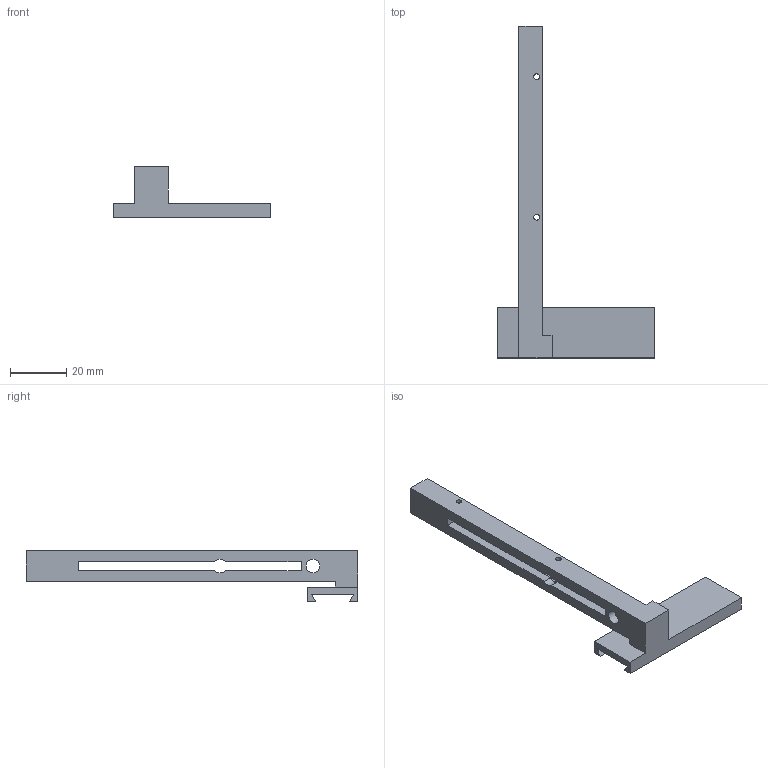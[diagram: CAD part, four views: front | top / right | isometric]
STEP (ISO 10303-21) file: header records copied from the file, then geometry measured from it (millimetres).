
FILE_DESCRIPTION(('Open CASCADE Model'),'2;1');
FILE_NAME('Open CASCADE Shape Model','2026-10-17T23:18:55',('Author'),( 'Open CASCADE'),'Open CASCADE STEP processor 7.9','Open CASCADE 7.9' ,'Unknown');
FILE_SCHEMA(('AUTOMOTIVE_DESIGN { 1 0 10303 214 1 1 1 1 }'));
Length unit declared in the file: millimetre
Products named in the file (1): Open CASCADE STEP translator 7.9 20
Bounding box: 56 x 118 x 17.9 mm (x, y, z)
Volume: 8661.9 mm3; surface area: 9054.7 mm2
Topology: 1 solids, 1 shells, 34 faces, 96 edges, 64 vertices
Faces by surface type: plane 27, cylinder 7
Full cylindrical faces by diameter (mm): 2 x4, 4.9 x1
Entity records: 2418 total; most frequent: CARTESIAN_POINT 471, DIRECTION 358, LINE 260, VECTOR 260, ORIENTED_EDGE 192, PCURVE 192, DEFINITIONAL_REPRESENTATION 192, EDGE_CURVE 96
